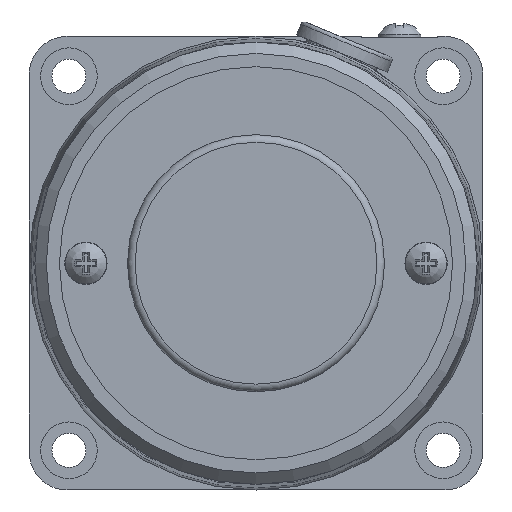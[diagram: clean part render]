
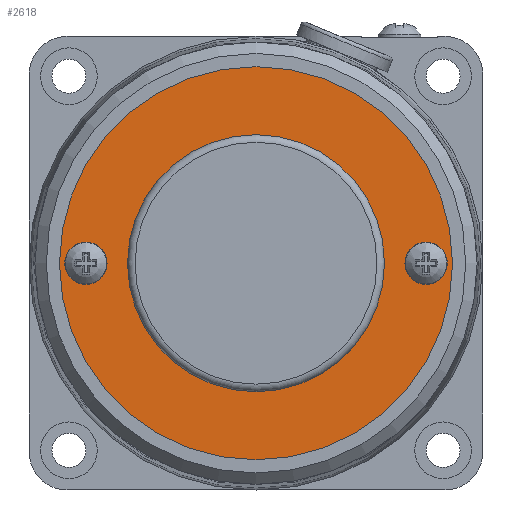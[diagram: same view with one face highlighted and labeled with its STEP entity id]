
A CAD part, left-side view. The second image highlights one B-rep face of the part: STEP entity #2618.
In plain terms, the highlighted planar face has unit normal (-1, 0, 0).
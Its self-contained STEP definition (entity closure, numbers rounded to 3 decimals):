
#162=FACE_BOUND('',#604,.T.);
#163=FACE_BOUND('',#605,.T.);
#164=FACE_BOUND('',#606,.T.);
#180=CIRCLE('',#2674,2.5);
#260=CIRCLE('',#2858,17.);
#262=CIRCLE('',#2862,26.);
#263=CIRCLE('',#2864,2.5);
#403=FACE_OUTER_BOUND('',#603,.T.);
#603=EDGE_LOOP('',(#2158));
#604=EDGE_LOOP('',(#2159));
#605=EDGE_LOOP('',(#2160));
#606=EDGE_LOOP('',(#2161));
#1048=VERTEX_POINT('',#3787);
#1213=VERTEX_POINT('',#4443);
#1215=VERTEX_POINT('',#4449);
#1216=VERTEX_POINT('',#4452);
#1296=EDGE_CURVE('',#1048,#1048,#180,.T.);
#1535=EDGE_CURVE('',#1213,#1213,#260,.T.);
#1537=EDGE_CURVE('',#1215,#1215,#262,.T.);
#1538=EDGE_CURVE('',#1216,#1216,#263,.T.);
#2158=ORIENTED_EDGE('',*,*,#1537,.F.);
#2159=ORIENTED_EDGE('',*,*,#1296,.F.);
#2160=ORIENTED_EDGE('',*,*,#1535,.T.);
#2161=ORIENTED_EDGE('',*,*,#1538,.F.);
#2337=PLANE('',#2863);
#2618=ADVANCED_FACE('',(#403,#162,#163,#164),#2337,.F.);
#2674=AXIS2_PLACEMENT_3D('',#3788,#2973,#2974);
#2858=AXIS2_PLACEMENT_3D('',#4444,#3481,#3482);
#2862=AXIS2_PLACEMENT_3D('',#4450,#3489,#3490);
#2863=AXIS2_PLACEMENT_3D('',#4451,#3491,#3492);
#2864=AXIS2_PLACEMENT_3D('',#4453,#3493,#3494);
#2973=DIRECTION('center_axis',(-1.,0.,0.));
#2974=DIRECTION('ref_axis',(0.,0.,-1.));
#3481=DIRECTION('center_axis',(1.,0.,0.));
#3482=DIRECTION('ref_axis',(0.,-1.,0.));
#3489=DIRECTION('center_axis',(1.,0.,0.));
#3490=DIRECTION('ref_axis',(0.,-1.,0.));
#3491=DIRECTION('center_axis',(1.,0.,0.));
#3492=DIRECTION('ref_axis',(0.,-1.,0.));
#3493=DIRECTION('center_axis',(-1.,0.,0.));
#3494=DIRECTION('ref_axis',(0.,0.,-1.));
#3787=CARTESIAN_POINT('',(-0.5,-20.,0.));
#3788=CARTESIAN_POINT('Origin',(-0.5,-22.5,0.));
#4443=CARTESIAN_POINT('',(-0.5,17.,0.));
#4444=CARTESIAN_POINT('Origin',(-0.5,0.,
0.));
#4449=CARTESIAN_POINT('',(-0.5,26.,0.));
#4450=CARTESIAN_POINT('Origin',(-0.5,0.,
0.));
#4451=CARTESIAN_POINT('Origin',(-0.5,0.,
0.));
#4452=CARTESIAN_POINT('',(-0.5,25.,0.));
#4453=CARTESIAN_POINT('Origin',(-0.5,22.5,0.));
